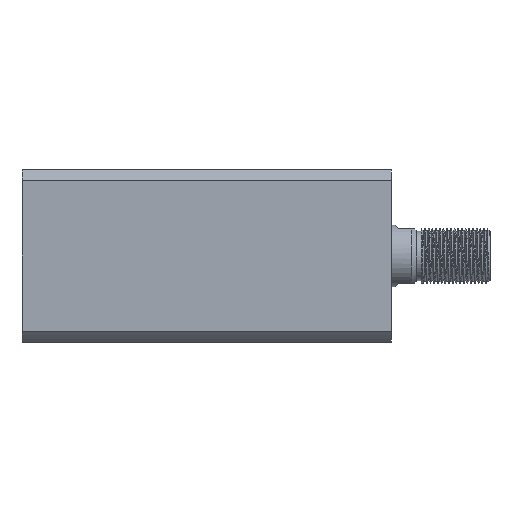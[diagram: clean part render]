
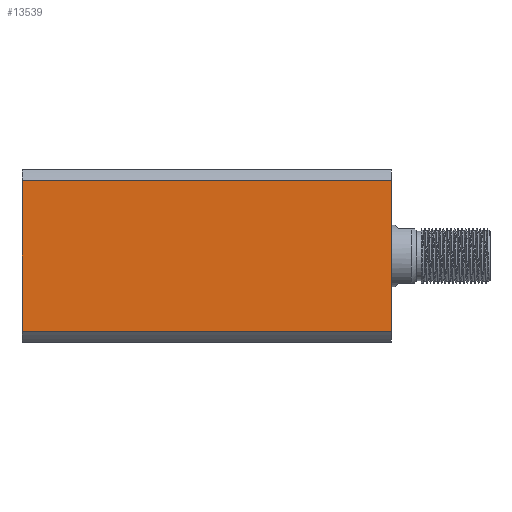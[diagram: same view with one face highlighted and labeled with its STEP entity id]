
A CAD part, left-side view. The second image highlights one B-rep face of the part: STEP entity #13539.
In plain terms, the highlighted planar face has unit normal (-1, 0, 0).
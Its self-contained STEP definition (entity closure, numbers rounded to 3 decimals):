
#262 = CARTESIAN_POINT ( 'NONE',  ( -35., -30.615, 0. ) ) ;
#485 = DIRECTION ( 'NONE',  ( 0., 0., -1. ) ) ;
#716 = VECTOR ( 'NONE', #1859, 1000. ) ;
#812 = ORIENTED_EDGE ( 'NONE', *, *, #2869, .F. ) ;
#948 = CARTESIAN_POINT ( 'NONE',  ( -35., -30.615, 150. ) ) ;
#954 = ORIENTED_EDGE ( 'NONE', *, *, #9808, .F. ) ;
#1000 = CARTESIAN_POINT ( 'NONE',  ( -35., -30.615, 300. ) ) ;
#1859 = DIRECTION ( 'NONE',  ( 0., 0., 1. ) ) ;
#2219 = VERTEX_POINT ( 'NONE', #5079 ) ;
#2669 = ORIENTED_EDGE ( 'NONE', *, *, #4250, .T. ) ;
#2848 = CARTESIAN_POINT ( 'NONE',  ( -35., 35., 150. ) ) ;
#2869 = EDGE_CURVE ( 'NONE', #10442, #12531, #3946, .T. ) ;
#2898 = CARTESIAN_POINT ( 'NONE',  ( -35., 30.615, 300. ) ) ;
#3304 = EDGE_CURVE ( 'NONE', #2219, #6799, #6245, .T. ) ;
#3946 = LINE ( 'NONE', #1000, #8881 ) ;
#4250 = EDGE_CURVE ( 'NONE', #2219, #12531, #10976, .T. ) ;
#4259 = FACE_OUTER_BOUND ( 'NONE', #8479, .T. ) ;
#4758 = ORIENTED_EDGE ( 'NONE', *, *, #3304, .F. ) ;
#5079 = CARTESIAN_POINT ( 'NONE',  ( -35., 30.615, 0. ) ) ;
#5395 = VECTOR ( 'NONE', #11410, 1000. ) ;
#6032 = DIRECTION ( 'NONE',  ( 0., 1., 0. ) ) ;
#6128 = CARTESIAN_POINT ( 'NONE',  ( -35., 30.615, 150. ) ) ;
#6245 = LINE ( 'NONE', #2898, #716 ) ;
#6799 = VERTEX_POINT ( 'NONE', #6128 ) ;
#7661 = AXIS2_PLACEMENT_3D ( 'NONE', #10219, #12324, #6032 ) ;
#8121 = PLANE ( 'NONE',  #7661 ) ;
#8479 = EDGE_LOOP ( 'NONE', ( #812, #954, #4758, #2669 ) ) ;
#8881 = VECTOR ( 'NONE', #485, 1000. ) ;
#9171 = DIRECTION ( 'NONE',  ( 0., -1., 0. ) ) ;
#9808 = EDGE_CURVE ( 'NONE', #6799, #10442, #10445, .T. ) ;
#10124 = VECTOR ( 'NONE', #9171, 1000. ) ;
#10219 = CARTESIAN_POINT ( 'NONE',  ( -35., 35., 150. ) ) ;
#10442 = VERTEX_POINT ( 'NONE', #948 ) ;
#10445 = LINE ( 'NONE', #2848, #10124 ) ;
#10976 = LINE ( 'NONE', #12517, #5395 ) ;
#11410 = DIRECTION ( 'NONE',  ( 0., -1., 0. ) ) ;
#12324 = DIRECTION ( 'NONE',  ( 1., 0., 0. ) ) ;
#12517 = CARTESIAN_POINT ( 'NONE',  ( -35., 35., 0. ) ) ;
#12531 = VERTEX_POINT ( 'NONE', #262 ) ;
#13539 = ADVANCED_FACE ( 'NONE', ( #4259 ), #8121, .F. ) ;
